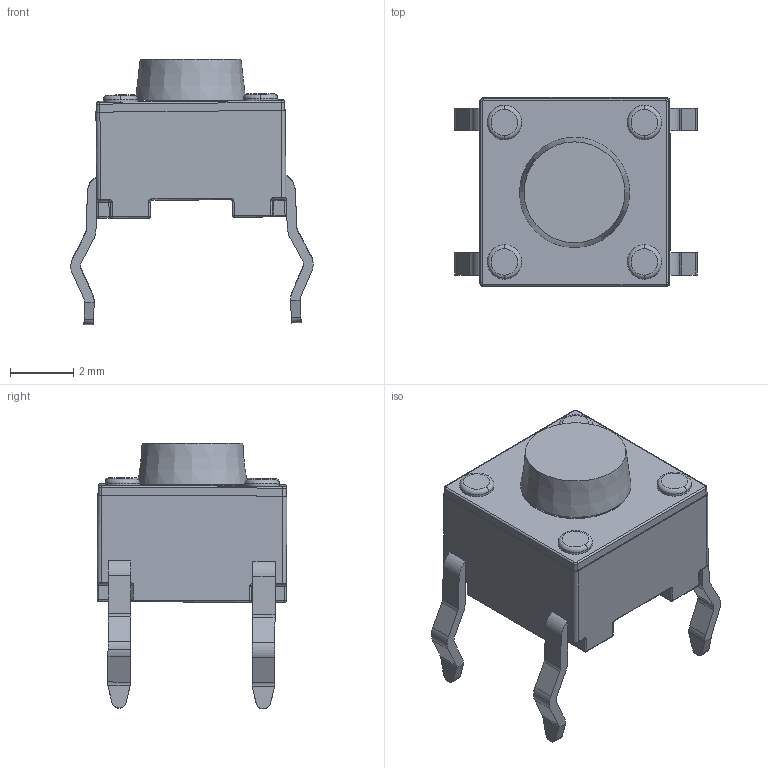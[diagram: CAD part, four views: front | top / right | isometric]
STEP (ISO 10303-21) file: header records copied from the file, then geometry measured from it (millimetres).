
FILE_DESCRIPTION(('FreeCAD Model'),'2;1');
FILE_NAME('C:/Users/Metaltex-99/Desktop/A06-5.0.stp', '2021-08-13T14:14:47',('Engenharia Metaltex'),('Metaltex'), 'Open CASCADE STEP processor 7.3','FreeCAD','Unknown');
FILE_SCHEMA(('AUTOMOTIVE_DESIGN { 1 0 10303 214 1 1 1 1 }'));
Length unit declared in the file: millimetre
Products named in the file (3): A06-5.0; Cilindro; Base
Assembly tree (2 placements, depth 2):
  A06-5.0
    Cilindro
    Base
Bounding box: 7.69 x 6.03 x 8.44 mm (x, y, z)
Volume: 137.4 mm3; surface area: 232.4 mm2
Topology: 2 solids, 2 shells, 294 faces, 716 edges, 408 vertices
Faces by surface type: cylinder 139, plane 90, torus 38, sphere 24, revolution 2, cone 1
Full cylindrical faces by diameter (mm): 3.46 x1
Entity records: 20696 total; most frequent: CARTESIAN_POINT 4354, DIRECTION 2863, LINE 1523, VECTOR 1523, ORIENTED_EDGE 1384, PCURVE 1384, DEFINITIONAL_REPRESENTATION 1384, EDGE_CURVE 692
